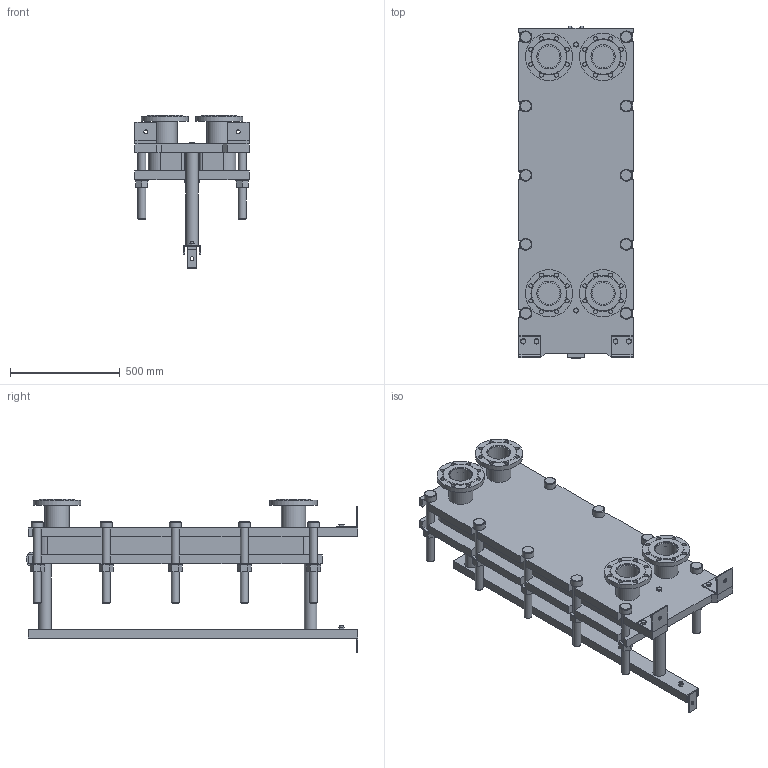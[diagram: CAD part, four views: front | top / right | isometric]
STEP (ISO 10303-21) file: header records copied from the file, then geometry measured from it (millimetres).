
FILE_DESCRIPTION(/* description */ (''),/* implementation_level */ '2;1');
FILE_NAME(/* name */ 'C:\Users\zhuro\Desktop\ENCO\TO\ЭН-04\ЭН-0,5-04-24-1.stp',/* time_stamp */ '2022-06-06T10:46:08+03:00',/* author */ ('zhuro'),/* organization */ (''),/* preprocessor_version */ 'ST-DEVELOPER v18.1',/* originating_system */ 'Autodesk Inventor 2022',/* authorisation */ '');
FILE_SCHEMA (('AUTOMOTIVE_DESIGN { 1 0 10303 214 3 1 1 }'));
Length unit declared in the file: millimetre
Products named in the file (1): ЭН-0,5-04-24-1
Bounding box: 520 x 1510 x 697 mm (x, y, z)
Volume: 108494450.2 mm3; surface area: 6684014.8 mm2
Topology: 45 solids, 45 shells, 668 faces, 1611 edges, 1048 vertices
Faces by surface type: plane 457, cylinder 166, cone 39, torus 6
Full cylindrical faces by diameter (mm): 8 x4, 10 x2, 16 x8, 18 x35, 36 x25, 40 x2, 42 x1, 45 x4, 54 x10, 57 x2, 60 x10, 68 x2, 100 x4, 110 x8, 215 x4
Entity records: 23607 total; most frequent: CARTESIAN_POINT 7348, DIRECTION 3371, ORIENTED_EDGE 3142, EDGE_CURVE 1571, AXIS2_PLACEMENT_3D 1199, VERTEX_POINT 1044, LINE 973, VECTOR 973
